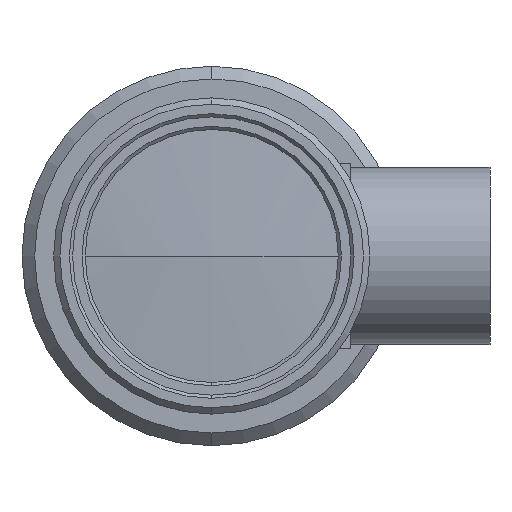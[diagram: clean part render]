
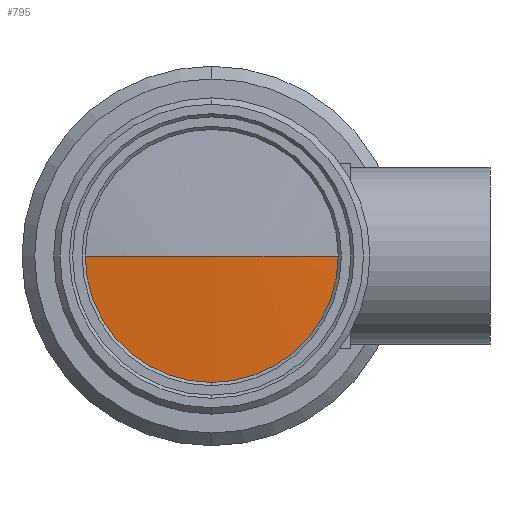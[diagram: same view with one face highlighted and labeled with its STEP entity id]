
A CAD part, left-side view. The second image highlights one B-rep face of the part: STEP entity #795.
In plain terms, the highlighted spherical face has radius 96 mm.
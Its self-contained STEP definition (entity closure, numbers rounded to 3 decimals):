
#782 = EDGE_CURVE ( 'NONE', #852, #853, #2275, .T. ) ;
#795 = ADVANCED_FACE ( 'NONE', ( #2300 ), #2269, .T. ) ;
#796 = EDGE_CURVE ( 'NONE', #874, #852, #2293, .T. ) ;
#814 = ORIENTED_EDGE ( 'NONE', *, *, #796, .T. ) ;
#836 = EDGE_LOOP ( 'NONE', ( #854, #873, #842, #814 ) ) ;
#842 = ORIENTED_EDGE ( 'NONE', *, *, #856, .F. ) ;
#852 = VERTEX_POINT ( 'NONE', #2366 ) ;
#853 = VERTEX_POINT ( 'NONE', #2419 ) ;
#854 = ORIENTED_EDGE ( 'NONE', *, *, #782, .T. ) ;
#855 = EDGE_CURVE ( 'NONE', #853, #875, #2418, .T. ) ;
#856 = EDGE_CURVE ( 'NONE', #874, #875, #2401, .T. ) ;
#873 = ORIENTED_EDGE ( 'NONE', *, *, #855, .T. ) ;
#874 = VERTEX_POINT ( 'NONE', #2425 ) ;
#875 = VERTEX_POINT ( 'NONE', #2396 ) ;
#2266 = DIRECTION ( 'NONE',  ( 0., 0., 1. ) ) ;
#2267 = DIRECTION ( 'NONE',  ( -1., 0., 0. ) ) ;
#2269 = SPHERICAL_SURFACE ( 'NONE', #2292, 96. ) ;
#2270 = CARTESIAN_POINT ( 'NONE',  ( 5.341, 0., 0. ) ) ;
#2275 = CIRCLE ( 'NONE', #2282, 10. ) ;
#2282 = AXIS2_PLACEMENT_3D ( 'NONE', #2270, #2267, #2266 ) ;
#2289 = DIRECTION ( 'NONE',  ( 0., 1., 0. ) ) ;
#2290 = DIRECTION ( 'NONE',  ( 0., 0., -1. ) ) ;
#2291 = CARTESIAN_POINT ( 'NONE',  ( 100.818, 0., 0. ) ) ;
#2292 = AXIS2_PLACEMENT_3D ( 'NONE', #2291, #2290, #2289 ) ;
#2293 = CIRCLE ( 'NONE', #2304, 10. ) ;
#2300 = FACE_OUTER_BOUND ( 'NONE', #836, .T. ) ;
#2304 = AXIS2_PLACEMENT_3D ( 'NONE', #2337, #2336, #2335 ) ;
#2335 = DIRECTION ( 'NONE',  ( 0., 0., 1. ) ) ;
#2336 = DIRECTION ( 'NONE',  ( -1., 0., 0. ) ) ;
#2337 = CARTESIAN_POINT ( 'NONE',  ( 5.341, 0., 0. ) ) ;
#2366 = CARTESIAN_POINT ( 'NONE',  ( 5.341, 0., -10. ) ) ;
#2396 = CARTESIAN_POINT ( 'NONE',  ( 4.818, 0., 0. ) ) ;
#2399 = DIRECTION ( 'NONE',  ( 1., 0., 0. ) ) ;
#2400 = DIRECTION ( 'NONE',  ( 0., 0., 1. ) ) ;
#2401 = CIRCLE ( 'NONE', #2411, 96. ) ;
#2402 = DIRECTION ( 'NONE',  ( 0., 1., 0. ) ) ;
#2403 = DIRECTION ( 'NONE',  ( 0., 0., -1. ) ) ;
#2404 = CARTESIAN_POINT ( 'NONE',  ( 100.818, 0., 0. ) ) ;
#2405 = AXIS2_PLACEMENT_3D ( 'NONE', #2404, #2403, #2402 ) ;
#2410 = CARTESIAN_POINT ( 'NONE',  ( 100.818, 0., 0. ) ) ;
#2411 = AXIS2_PLACEMENT_3D ( 'NONE', #2410, #2400, #2399 ) ;
#2418 = CIRCLE ( 'NONE', #2405, 96. ) ;
#2419 = CARTESIAN_POINT ( 'NONE',  ( 5.341, -10., 0. ) ) ;
#2425 = CARTESIAN_POINT ( 'NONE',  ( 5.341, 10., 0. ) ) ;
